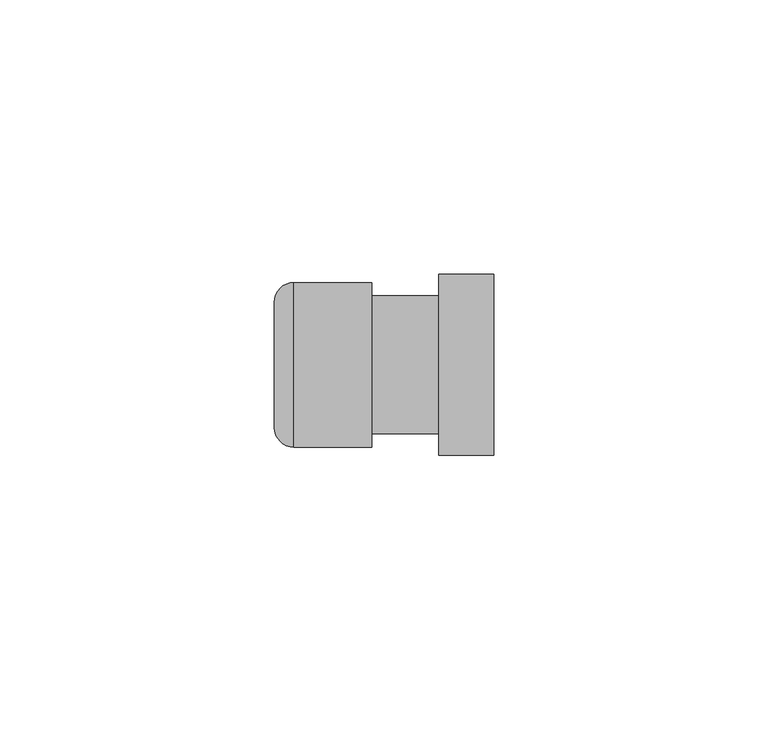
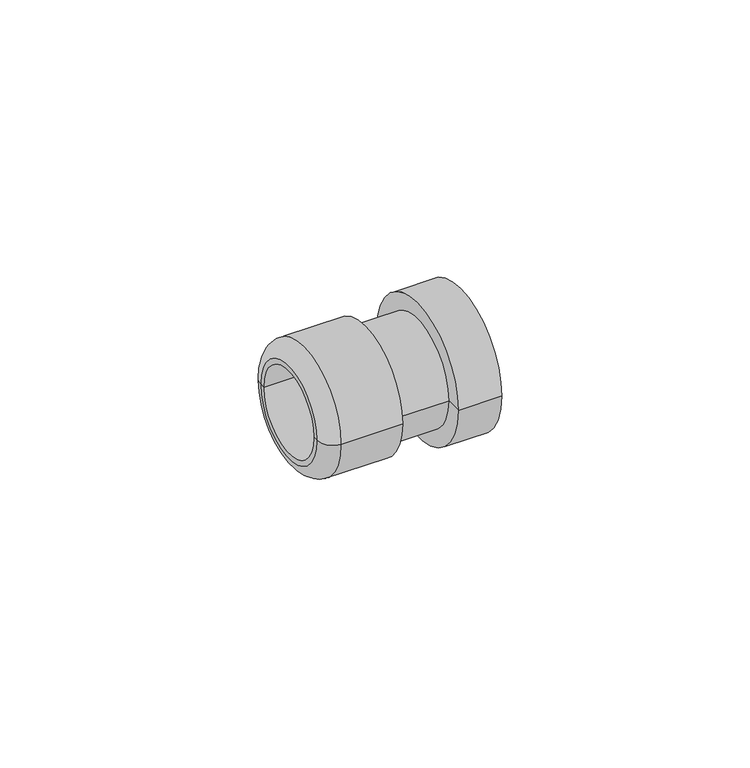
"""IFC4 building model written with IfcOpenShell, lengths in millimetres: cable carrier fitting geometry."""

from ifc_helpers import new_model, si_unit, point, frame, origin, place, context, project, spatial, polyline, circle_curve, ellipse_curve, trimmed, source, transform, mapped, element, save
from ifc_brep_helpers import plane_surface, cylinder_surface, revolved_surface, advanced_brep


def cable_carrier_fitting_78a60928(model_context):
    return source(origin(), model_context, "Body", "AdvancedBrep", [
        advanced_brep(
        [(0.0, -15.0, 0.0), (0.0, 15.0, 0.0), (0.0, 12.6, 0.0), (0.0, -12.6, 0.0), (-14.239955, -15.0, 0.0), (-14.239955, 15.0, 0.0), (-17.8, -11.439955, 0.0), (-17.8, 11.439955, 0.0), (-17.8, -10.2, 0.0), (-17.8, 10.2, 0.0), (22.2, -10.2, 0.0), (22.2, 10.2, 0.0), (22.2, -16.5, 0.0), (22.2, 16.5, 0.0), (12.2, -16.5, 0.0), (12.2, 16.5, 0.0), (12.2, -12.6, 0.0), (12.2, 12.6, 0.0)],
        [
            (0, 1, circle_curve(frame((0.0, 0.0, 0.0), z_axis=(1.0, 0.0, 0.0), x_axis=(0.0, 1.0, 0.0)), 15.0)),
            (1, 2),
            (2, 3, circle_curve(frame((0.0, 0.0, 0.0), z_axis=(-1.0, 0.0, 0.0), x_axis=(0.0, 1.0, 0.0)), 12.6)),
            (3, 0),
            (1, 0, circle_curve(frame((0.0, 0.0, 0.0), z_axis=(1.0, 0.0, 0.0), x_axis=(0.0, 1.0, 0.0)), 15.0)),
            (3, 2, circle_curve(frame((0.0, 0.0, 0.0), z_axis=(-1.0, 0.0, 0.0), x_axis=(0.0, 1.0, 0.0)), 12.6)),
            (4, 5, circle_curve(frame((-14.239955, 0.0, 0.0), z_axis=(1.0, 0.0, 0.0), x_axis=(0.0, 1.0, 0.0)), 15.0)),
            (5, 1),
            (0, 4),
            (5, 4, circle_curve(frame((-14.239955, 0.0, 0.0), z_axis=(1.0, 0.0, 0.0), x_axis=(0.0, 1.0, 0.0)), 15.0)),
            (6, 7, circle_curve(frame((-17.8, 0.0, 0.0), z_axis=(1.0, 0.0, 0.0), x_axis=(0.0, 1.0, 0.0)), 11.439955)),
            (7, 5, circle_curve(frame((-14.239955, 11.439955, 0.0), z_axis=(0.0, 0.0, -1.0), x_axis=(1.0, 0.0, 0.0)), 3.560045)),
            (4, 6, circle_curve(frame((-14.239955, -11.439955, 0.0), z_axis=(0.0, 0.0, -1.0), x_axis=(1.0, 0.0, 0.0)), 3.560045)),
            (7, 6, circle_curve(frame((-17.8, 0.0, 0.0), z_axis=(1.0, 0.0, 0.0), x_axis=(0.0, 1.0, 0.0)), 11.439955)),
            (8, 9, circle_curve(frame((-17.8, 0.0, 0.0), z_axis=(1.0, 0.0, 0.0), x_axis=(0.0, 1.0, 0.0)), 10.2)),
            (9, 7),
            (6, 8),
            (9, 8, circle_curve(frame((-17.8, 0.0, 0.0), z_axis=(1.0, 0.0, 0.0), x_axis=(0.0, 1.0, 0.0)), 10.2)),
            (10, 11, circle_curve(frame((22.2, 0.0, 0.0), z_axis=(1.0, 0.0, 0.0), x_axis=(0.0, 1.0, 0.0)), 10.2)),
            (11, 9),
            (8, 10),
            (11, 10, circle_curve(frame((22.2, 0.0, 0.0), z_axis=(1.0, 0.0, 0.0), x_axis=(0.0, 1.0, 0.0)), 10.2)),
            (12, 13, circle_curve(frame((22.2, 0.0, 0.0), z_axis=(1.0, 0.0, 0.0), x_axis=(0.0, 1.0, 0.0)), 16.5)),
            (13, 11),
            (10, 12),
            (13, 12, circle_curve(frame((22.2, 0.0, 0.0), z_axis=(1.0, 0.0, 0.0), x_axis=(0.0, 1.0, 0.0)), 16.5)),
            (14, 15, circle_curve(frame((12.2, 0.0, 0.0), z_axis=(1.0, 0.0, 0.0), x_axis=(0.0, 1.0, 0.0)), 16.5)),
            (15, 13),
            (12, 14),
            (15, 14, circle_curve(frame((12.2, 0.0, 0.0), z_axis=(1.0, 0.0, 0.0), x_axis=(0.0, 1.0, 0.0)), 16.5)),
            (16, 17, circle_curve(frame((12.2, 0.0, 0.0), z_axis=(1.0, 0.0, 0.0), x_axis=(0.0, 1.0, 0.0)), 12.6)),
            (17, 15),
            (14, 16),
            (17, 16, circle_curve(frame((12.2, 0.0, 0.0), z_axis=(1.0, 0.0, 0.0), x_axis=(0.0, 1.0, 0.0)), 12.6)),
            (2, 17),
            (16, 3),
        ],
        [
            plane_surface(frame((0.0, 0.0, 0.0), z_axis=(1.0, 0.0, 0.0), x_axis=(0.0, 1.0, 0.0))),
            cylinder_surface(frame((1546.6, 0.0, 0.0), z_axis=(-1.0, 0.0, 0.0), x_axis=(0.0, 1.0, 0.0)), 15.0),
            revolved_surface(trimmed(ellipse_curve(frame((-14.239955, 11.439955, 0.0), z_axis=(0.0, 0.0, 1.0), x_axis=(1.0, 0.0, 0.0)), 3.560045, 3.560045), [point((-14.239955, 15.0, 0.0))], [point((-17.8, 11.439955, 0.0))], True, "CARTESIAN"), (1546.6, 0.0, 0.0), (-1.0, 0.0, 0.0)),
            plane_surface(frame((-17.8, 0.0, 0.0), z_axis=(-1.0, 0.0, 0.0), x_axis=(0.0, 1.0, 0.0))),
            revolved_surface(polyline([(-17.799999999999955, 10.2, 0.0), (22.200000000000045, 10.2, 0.0)]), (1546.6, 0.0, 0.0), (-1.0, 0.0, 0.0)),
            plane_surface(frame((22.2, 0.0, 0.0), z_axis=(1.0, 0.0, 0.0), x_axis=(0.0, 1.0, 0.0))),
            cylinder_surface(frame((1546.6, 0.0, 0.0), z_axis=(-1.0, 0.0, 0.0), x_axis=(0.0, 1.0, 0.0)), 16.5),
            plane_surface(frame((12.2, 0.0, 0.0), z_axis=(-1.0, 0.0, 0.0), x_axis=(0.0, 1.0, 0.0))),
            cylinder_surface(frame((1546.6, 0.0, 0.0), z_axis=(-1.0, 0.0, 0.0), x_axis=(0.0, 1.0, 0.0)), 12.6),
        ],
        [
            (0, [[1, 2, 3, 4]]),
            (0, [[5, -4, 6, -2]]),
            (1, [[7, 8, -1, 9]]),
            (1, [[10, -9, -5, -8]]),
            (2, [[11, 12, -7, 13]]),
            (2, [[14, -13, -10, -12]]),
            (3, [[15, 16, -11, 17]]),
            (3, [[18, -17, -14, -16]]),
            (4, [[19, 20, -15, 21]]),
            (4, [[22, -21, -18, -20]]),
            (5, [[23, 24, -19, 25]]),
            (5, [[26, -25, -22, -24]]),
            (6, [[27, 28, -23, 29]]),
            (6, [[30, -29, -26, -28]]),
            (7, [[31, 32, -27, 33]]),
            (7, [[34, -33, -30, -32]]),
            (8, [[-3, 35, -31, 36]]),
            (8, [[-6, -36, -34, -35]]),
        ],
    ),
    ])


if __name__ == "__main__":
    model = new_model("IFC4")
    model_context = context("Model", 3, world=origin())
    ifc_project = project(units=[si_unit("LENGTHUNIT", "METRE", prefix="MILLI")], contexts=[model_context])
    site = spatial("IfcSite", under=ifc_project)
    building = spatial("IfcBuilding", under=site)
    placement = place(None, origin())
    cable_carrier_fitting_shape = cable_carrier_fitting_78a60928(model_context)
    element("IfcCableCarrierFitting", 1, at=placement, inside=building, context=model_context, shape_type="MappedRepresentation", body=[
        mapped(cable_carrier_fitting_shape, transform((0.0, 0.0, 0.0), x_axis=(1.0, 0.0, 0.0), y_axis=(0.0, 1.0, 0.0), z_axis=(0.0, 0.0, 1.0))),
    ])
    save(model, "model.ifc")
